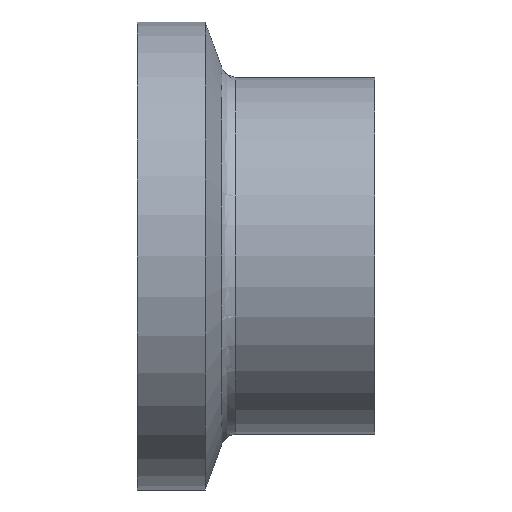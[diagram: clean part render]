
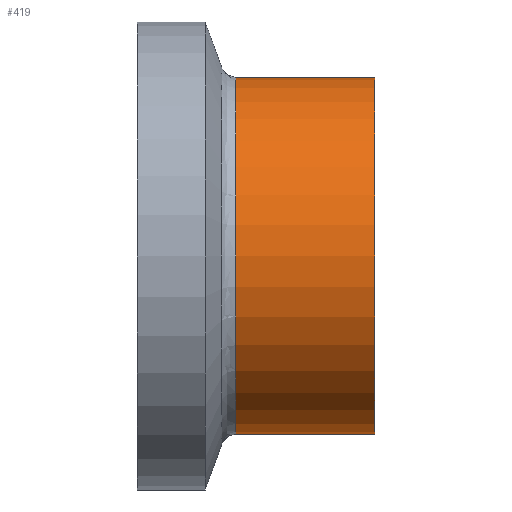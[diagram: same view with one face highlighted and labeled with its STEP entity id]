
A CAD part, front view. The second image highlights one B-rep face of the part: STEP entity #419.
In plain terms, the highlighted cylindrical face has radius 9.525 mm (diameter 19.05 mm), a partial arc.
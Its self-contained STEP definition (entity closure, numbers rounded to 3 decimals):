
#22 = ORIENTED_EDGE ( 'NONE', *, *, #572, .T. ) ;
#25 = DIRECTION ( 'NONE',  ( 0., 0., 1. ) ) ;
#28 = CARTESIAN_POINT ( 'NONE',  ( -9.765, 0., 0. ) ) ;
#41 = DIRECTION ( 'NONE',  ( -1., 0., 0. ) ) ;
#59 = CARTESIAN_POINT ( 'NONE',  ( 5.265, 0., 9.525 ) ) ;
#74 = AXIS2_PLACEMENT_3D ( 'NONE', #216, #217, #219 ) ;
#128 = CARTESIAN_POINT ( 'NONE',  ( 5.265, 0., -9.525 ) ) ;
#151 = CARTESIAN_POINT ( 'NONE',  ( 12.7, 0., -9.525 ) ) ;
#161 = AXIS2_PLACEMENT_3D ( 'NONE', #28, #41, #25 ) ;
#216 = CARTESIAN_POINT ( 'NONE',  ( 12.7, 0., 0. ) ) ;
#217 = DIRECTION ( 'NONE',  ( -1., 0., 0. ) ) ;
#219 = DIRECTION ( 'NONE',  ( 0., 0., 1. ) ) ;
#235 = ORIENTED_EDGE ( 'NONE', *, *, #291, .T. ) ;
#261 = EDGE_CURVE ( 'NONE', #340, #547, #699, .T. ) ;
#291 = EDGE_CURVE ( 'NONE', #498, #547, #716, .T. ) ;
#304 = CARTESIAN_POINT ( 'NONE',  ( 12.7, 0., 9.525 ) ) ;
#309 = ORIENTED_EDGE ( 'NONE', *, *, #261, .F. ) ;
#330 = DIRECTION ( 'NONE',  ( 1., 0., 0. ) ) ;
#340 = VERTEX_POINT ( 'NONE', #151 ) ;
#358 = EDGE_CURVE ( 'NONE', #673, #498, #652, .T. ) ;
#399 = ORIENTED_EDGE ( 'NONE', *, *, #358, .T. ) ;
#419 = ADVANCED_FACE ( 'NONE', ( #586 ), #576, .T. ) ;
#468 = DIRECTION ( 'NONE',  ( -1., 0., 0. ) ) ;
#473 = CARTESIAN_POINT ( 'NONE',  ( -9.765, 0., 9.525 ) ) ;
#481 = DIRECTION ( 'NONE',  ( 0., 0., 1. ) ) ;
#492 = EDGE_LOOP ( 'NONE', ( #309, #22, #399, #235 ) ) ;
#498 = VERTEX_POINT ( 'NONE', #59 ) ;
#509 = CARTESIAN_POINT ( 'NONE',  ( 5.265, 0., 0. ) ) ;
#523 = AXIS2_PLACEMENT_3D ( 'NONE', #509, #330, #481 ) ;
#540 = CIRCLE ( 'NONE', #74, 9.525 ) ;
#547 = VERTEX_POINT ( 'NONE', #128 ) ;
#572 = EDGE_CURVE ( 'NONE', #340, #673, #540, .T. ) ;
#576 = CYLINDRICAL_SURFACE ( 'NONE', #161, 9.525 ) ;
#586 = FACE_OUTER_BOUND ( 'NONE', #492, .T. ) ;
#646 = VECTOR ( 'NONE', #468, 1000. ) ;
#652 = LINE ( 'NONE', #473, #646 ) ;
#658 = CARTESIAN_POINT ( 'NONE',  ( -9.765, 0., -9.525 ) ) ;
#665 = DIRECTION ( 'NONE',  ( -1., 0., 0. ) ) ;
#673 = VERTEX_POINT ( 'NONE', #304 ) ;
#688 = VECTOR ( 'NONE', #665, 1000. ) ;
#699 = LINE ( 'NONE', #658, #688 ) ;
#716 = CIRCLE ( 'NONE', #523, 9.525 ) ;
